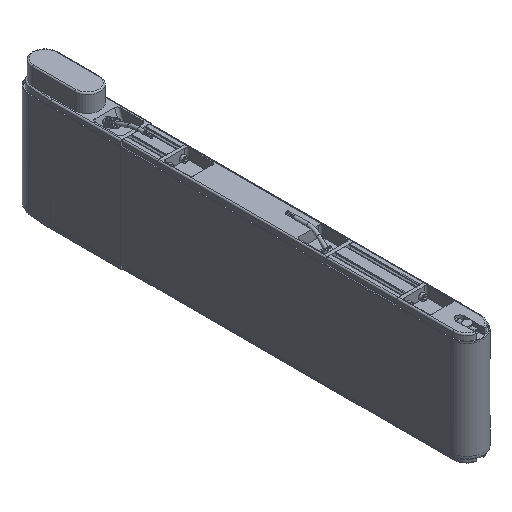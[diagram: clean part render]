
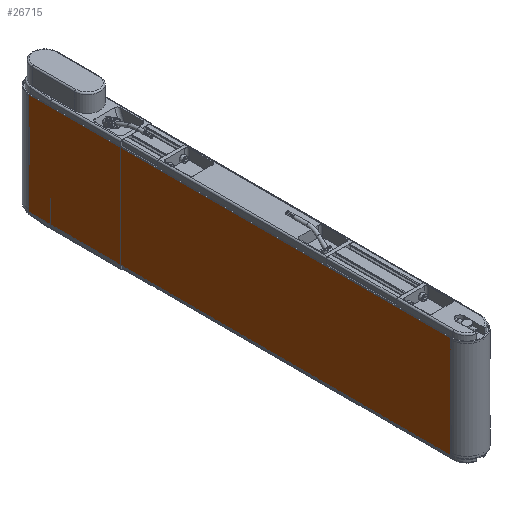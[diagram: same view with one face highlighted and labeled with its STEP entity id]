
A CAD part, isometric view. The second image highlights one B-rep face of the part: STEP entity #26715.
In plain terms, the highlighted planar face has unit normal (-1, 0, 0).
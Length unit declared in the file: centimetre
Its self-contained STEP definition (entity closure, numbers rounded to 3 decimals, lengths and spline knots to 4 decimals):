
#799=PLANE('',#28167);
#1510=FACE_OUTER_BOUND('',#2911,.T.);
#2911=EDGE_LOOP('',(#16993,#16994,#16995,#16996));
#4532=LINE('',#38757,#6680);
#4533=LINE('',#38762,#6681);
#4535=LINE('',#38766,#6683);
#4536=LINE('',#38767,#6684);
#6680=VECTOR('',#31016,1.);
#6681=VECTOR('',#31021,1.);
#6683=VECTOR('',#31025,1.);
#6684=VECTOR('',#31026,1.);
#10268=VERTEX_POINT('',#38751);
#10270=VERTEX_POINT('',#38755);
#10272=VERTEX_POINT('',#38760);
#10273=VERTEX_POINT('',#38765);
#13019=EDGE_CURVE('',#10268,#10270,#4532,.T.);
#13021=EDGE_CURVE('',#10272,#10270,#4533,.T.);
#13023=EDGE_CURVE('',#10272,#10273,#4535,.T.);
#13024=EDGE_CURVE('',#10273,#10268,#4536,.T.);
#16993=ORIENTED_EDGE('',*,*,#13023,.T.);
#16994=ORIENTED_EDGE('',*,*,#13024,.T.);
#16995=ORIENTED_EDGE('',*,*,#13019,.T.);
#16996=ORIENTED_EDGE('',*,*,#13021,.F.);
#26715=ADVANCED_FACE('',(#1510),#799,.T.);
#28167=AXIS2_PLACEMENT_3D('',#38764,#31023,#31024);
#31016=DIRECTION('',(0.,-1.,0.));
#31021=DIRECTION('',(0.,0.,-1.));
#31023=DIRECTION('center_axis',(-1.,0.,0.));
#31024=DIRECTION('ref_axis',(0.,0.,
-1.));
#31025=DIRECTION('',(0.,1.,0.));
#31026=DIRECTION('',(0.,0.,-1.));
#38751=CARTESIAN_POINT('',(-2.32,13.,-7.25));
#38755=CARTESIAN_POINT('',(-2.32,-47.,-7.25));
#38757=CARTESIAN_POINT('',(-2.32,-47.,-7.25));
#38760=CARTESIAN_POINT('',(-2.32,-47.,7.25));
#38762=CARTESIAN_POINT('',(-2.32,-47.,0.));
#38764=CARTESIAN_POINT('Origin',(-2.32,-47.,0.));
#38765=CARTESIAN_POINT('',(-2.32,13.,7.25));
#38766=CARTESIAN_POINT('',(-2.32,-47.,7.25));
#38767=CARTESIAN_POINT('',(-2.32,13.,0.));
